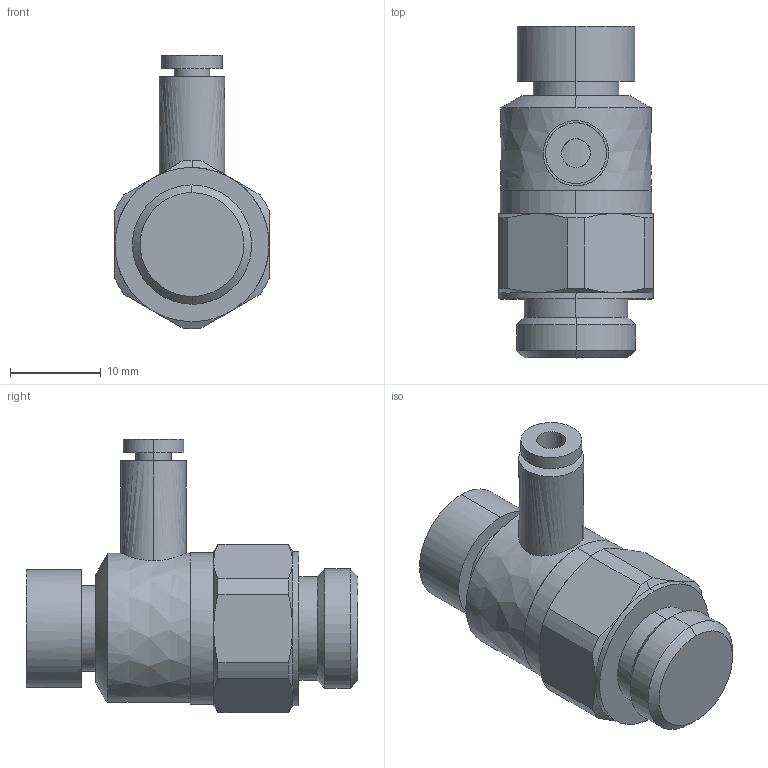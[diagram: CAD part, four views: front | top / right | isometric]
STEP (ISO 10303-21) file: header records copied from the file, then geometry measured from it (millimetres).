
FILE_DESCRIPTION (( 'STEP AP214' ), '1' );
FILE_NAME ('AS2211FC-G02-23A.STEP', '2023-03-08T10:08:04', ( 'Windows User' ), ( 'P R C' ), 'SwSTEP 2.0', 'SolidWorks 2019', '' );
FILE_SCHEMA (( 'AUTOMOTIVE_DESIGN' ));
Length unit declared in the file: millimetre
Products named in the file (1): AS2211FC-G02-23A
Bounding box: 17.01 x 36.6 x 30.2 mm (x, y, z)
Volume: 7143.6 mm3; surface area: 2794.8 mm2
Topology: 1 solids, 1 shells, 69 faces, 158 edges, 101 vertices
Faces by surface type: bspline 51, plane 18
Entity records: 2810 total; most frequent: CARTESIAN_POINT 1790, ORIENTED_EDGE 316, EDGE_CURVE 158, VERTEX_POINT 101, B_SPLINE_CURVE_WITH_KNOTS 97, EDGE_LOOP 79, FACE_OUTER_BOUND 69, ADVANCED_FACE 69
